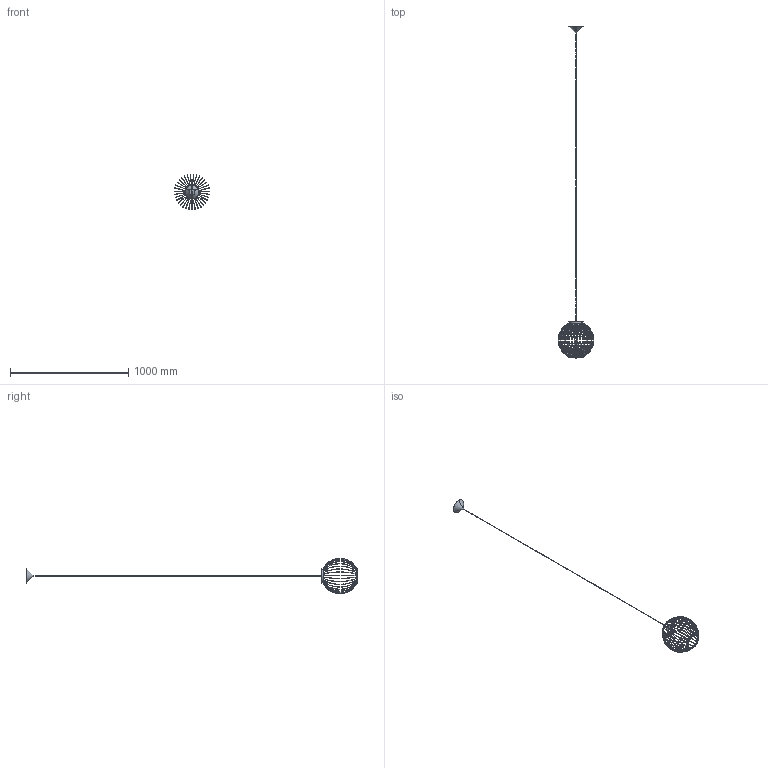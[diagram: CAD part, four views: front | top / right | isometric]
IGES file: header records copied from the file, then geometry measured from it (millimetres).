
Start section: SolidWorks IGES file using analytic representation for surfaces
Global section: file name: C:\Users\danielet\Desktop\3D CARLOS\LENNIS-C3928-3D\LENNIS-C3928-3D.IGS; native system: SolidWorks 2018; preprocessor: SolidWorks 2018; author: danielet; date: 220128.123900; units: millimetre
Bounding box: 299.78 x 2805 x 299.48 mm (x, y, z)
Surface area: 140505.5 mm2 (no closed solid volume)
Topology: 0 solids, 0 shells, 141 faces, 6912 edges, 6910 vertices
Faces by surface type: bspline 117, revolution 24
